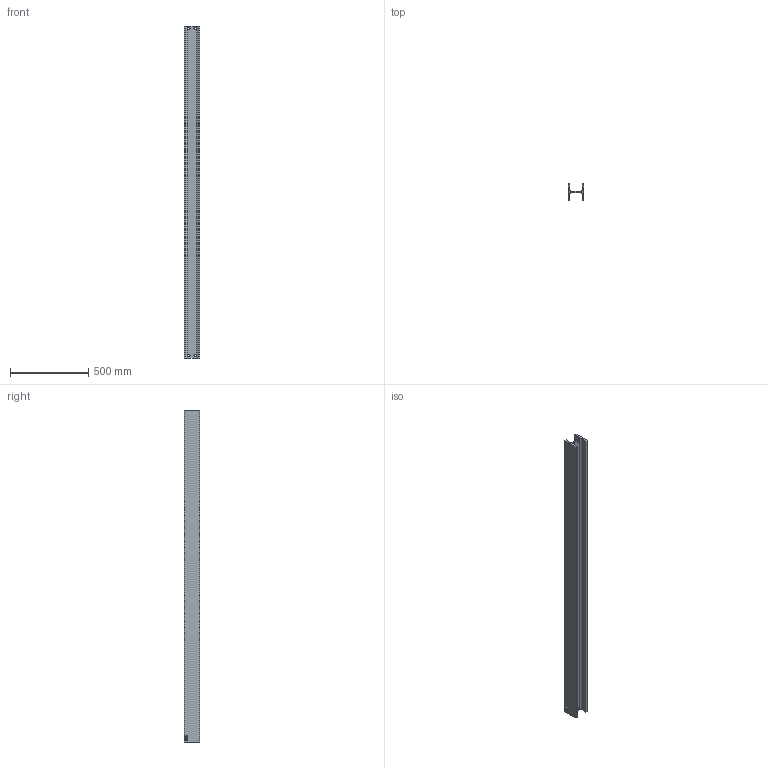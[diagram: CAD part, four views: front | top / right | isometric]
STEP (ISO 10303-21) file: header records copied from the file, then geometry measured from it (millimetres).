
FILE_DESCRIPTION (( 'STEP AP214' ), '1' );
FILE_NAME ('CCJ029-REP.001 - POTEAU TYPE 1.STEP', '2025-02-13T08:43:55', ( '' ), ( '' ), 'SwSTEP 2.0', 'SolidWorks 2021', '' );
FILE_SCHEMA (( 'AUTOMOTIVE_DESIGN' ));
Length unit declared in the file: millimetre
Products named in the file (1): CCJ029-REP.001 - POTEAU TYPE 1
Bounding box: 100 x 100 x 2120 mm (x, y, z)
Volume: 5515349.7 mm3; surface area: 1207902.1 mm2
Topology: 1 solids, 1 shells, 55 faces, 144 edges, 96 vertices
Faces by surface type: plane 25, bspline 18, cylinder 12
Entity records: 3176 total; most frequent: CARTESIAN_POINT 1866, ORIENTED_EDGE 288, DIRECTION 208, EDGE_CURVE 144, VERTEX_POINT 96, LINE 84, VECTOR 84, EDGE_LOOP 68
